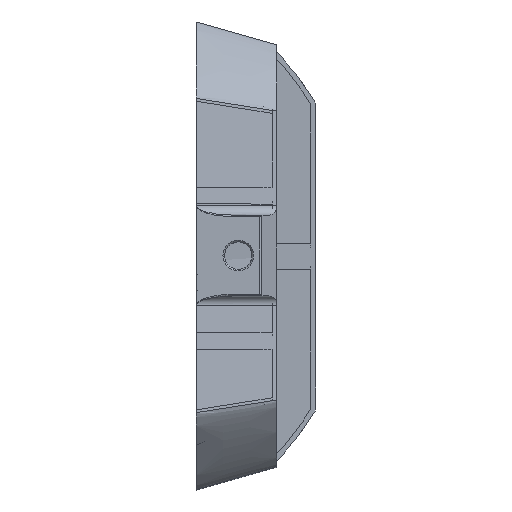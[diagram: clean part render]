
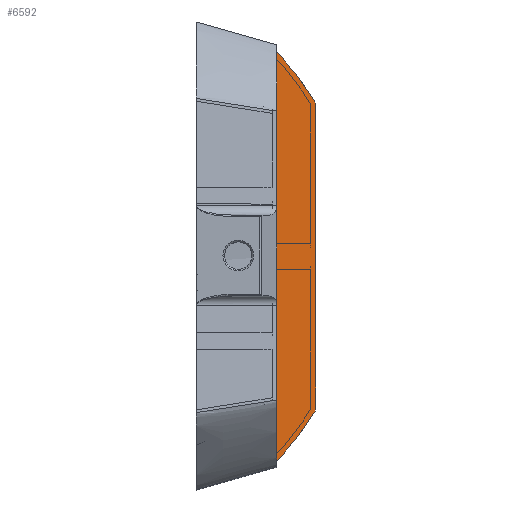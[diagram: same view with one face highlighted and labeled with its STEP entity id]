
A CAD part, top view. The second image highlights one B-rep face of the part: STEP entity #6592.
In plain terms, the highlighted planar face has unit normal (0, 0, 1).
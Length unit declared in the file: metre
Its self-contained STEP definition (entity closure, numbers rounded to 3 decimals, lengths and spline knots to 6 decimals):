
#181=LINE('',#10333,#677);
#182=LINE('',#10335,#678);
#677=VECTOR('',#7999,1.);
#678=VECTOR('',#8002,1.);
#1124=PLANE('',#7045);
#1254=B_SPLINE_CURVE_WITH_KNOTS('',3,(#10204,#10205,#10206,#10207,#10208,
#10209,#10210,#10211,#10212,#10213,#10214),.UNSPECIFIED.,.F.,.F.,(4,1,1,
1,1,1,1,1,4),(0.064484,0.162317,0.26015,0.357983,
0.455817,0.55365,0.651483,0.749316,0.847149),
 .QUASI_UNIFORM_KNOTS.);
#1256=B_SPLINE_CURVE_WITH_KNOTS('',3,(#10254,#10255,#10256,#10257,#10258,
#10259,#10260,#10261,#10262,#10263,#10264),.UNSPECIFIED.,.F.,.F.,(4,1,1,
1,1,1,1,1,4),(0.064484,0.162317,0.26015,0.357983,
0.455817,0.55365,0.651483,0.749316,0.847149),
 .QUASI_UNIFORM_KNOTS.);
#1778=ORIENTED_EDGE('',*,*,#3629,.T.);
#1779=ORIENTED_EDGE('',*,*,#3644,.T.);
#1780=ORIENTED_EDGE('',*,*,#3633,.T.);
#1781=ORIENTED_EDGE('',*,*,#3643,.F.);
#3629=EDGE_CURVE('',#5406,#5404,#1254,.T.);
#3633=EDGE_CURVE('',#5410,#5409,#1256,.T.);
#3643=EDGE_CURVE('',#5406,#5409,#181,.T.);
#3644=EDGE_CURVE('',#5404,#5410,#182,.T.);
#4884=EDGE_LOOP('',(#1778,#1779,#1780,#1781));
#5404=VERTEX_POINT('',#10202);
#5406=VERTEX_POINT('',#10215);
#5409=VERTEX_POINT('',#10253);
#5410=VERTEX_POINT('',#10265);
#6075=FACE_BOUND('',#4884,.T.);
#6592=ADVANCED_FACE('',(#6075),#1124,.T.);
#7045=AXIS2_PLACEMENT_3D('',#10334,#8000,#8001);
#7999=DIRECTION('',(0.,-1.,0.));
#8000=DIRECTION('',(0.,0.,1.));
#8001=DIRECTION('',(1.,0.,0.));
#8002=DIRECTION('',(0.,-1.,0.));
#10202=CARTESIAN_POINT('',(0.098,0.063288,0.235));
#10204=CARTESIAN_POINT('',(0.11,0.047313,0.235));
#10205=CARTESIAN_POINT('',(0.11,0.047428,0.235));
#10206=CARTESIAN_POINT('',(0.109878,0.047846,0.235));
#10207=CARTESIAN_POINT('',(0.109031,0.049393,0.235));
#10208=CARTESIAN_POINT('',(0.107247,0.052129,0.235));
#10209=CARTESIAN_POINT('',(0.104624,0.055769,0.235));
#10210=CARTESIAN_POINT('',(0.101858,0.059302,0.235));
#10211=CARTESIAN_POINT('',(0.099728,0.061778,0.235));
#10212=CARTESIAN_POINT('',(0.098478,0.063022,0.235));
#10213=CARTESIAN_POINT('',(0.098111,0.063255,0.235));
#10214=CARTESIAN_POINT('',(0.098,0.063288,0.235));
#10215=CARTESIAN_POINT('',(0.11,0.047313,0.235));
#10253=CARTESIAN_POINT('',(0.11,-0.047313,0.235));
#10254=CARTESIAN_POINT('',(0.098,-0.063288,0.235));
#10255=CARTESIAN_POINT('',(0.098111,-0.063255,0.235));
#10256=CARTESIAN_POINT('',(0.098478,-0.063022,0.235));
#10257=CARTESIAN_POINT('',(0.099728,-0.061778,0.235));
#10258=CARTESIAN_POINT('',(0.101858,-0.059302,0.235));
#10259=CARTESIAN_POINT('',(0.104624,-0.055769,0.235));
#10260=CARTESIAN_POINT('',(0.107247,-0.052129,0.235));
#10261=CARTESIAN_POINT('',(0.109031,-0.049393,0.235));
#10262=CARTESIAN_POINT('',(0.109878,-0.047846,0.235));
#10263=CARTESIAN_POINT('',(0.11,-0.047428,0.235));
#10264=CARTESIAN_POINT('',(0.11,-0.047313,0.235));
#10265=CARTESIAN_POINT('',(0.098,-0.063288,0.235));
#10333=CARTESIAN_POINT('',(0.11,0.047313,0.235));
#10334=CARTESIAN_POINT('',(0.1165,1.167992,0.235));
#10335=CARTESIAN_POINT('',(0.098,0.063288,0.235));
